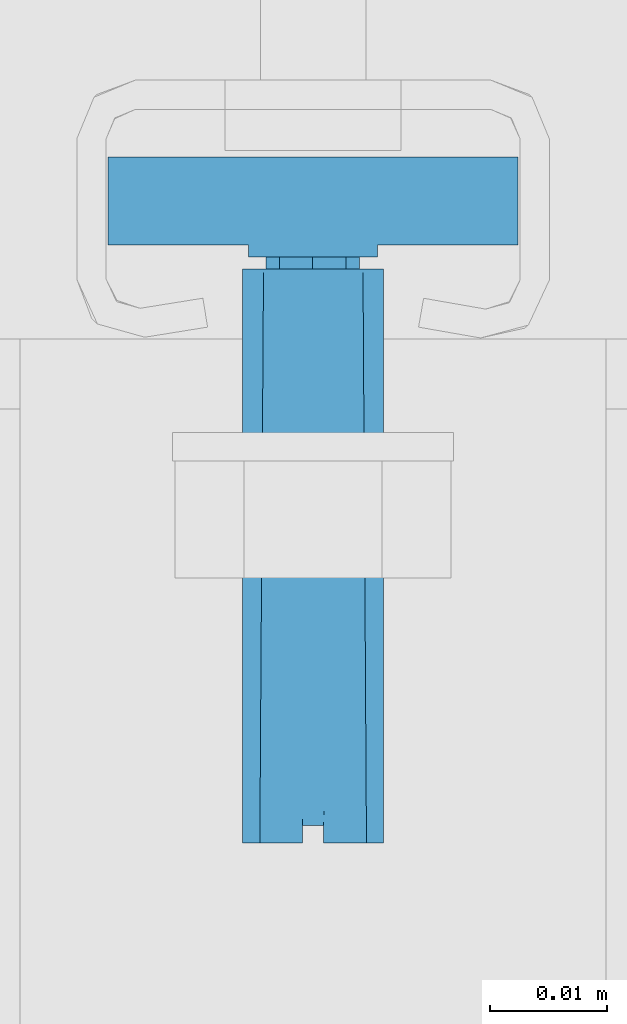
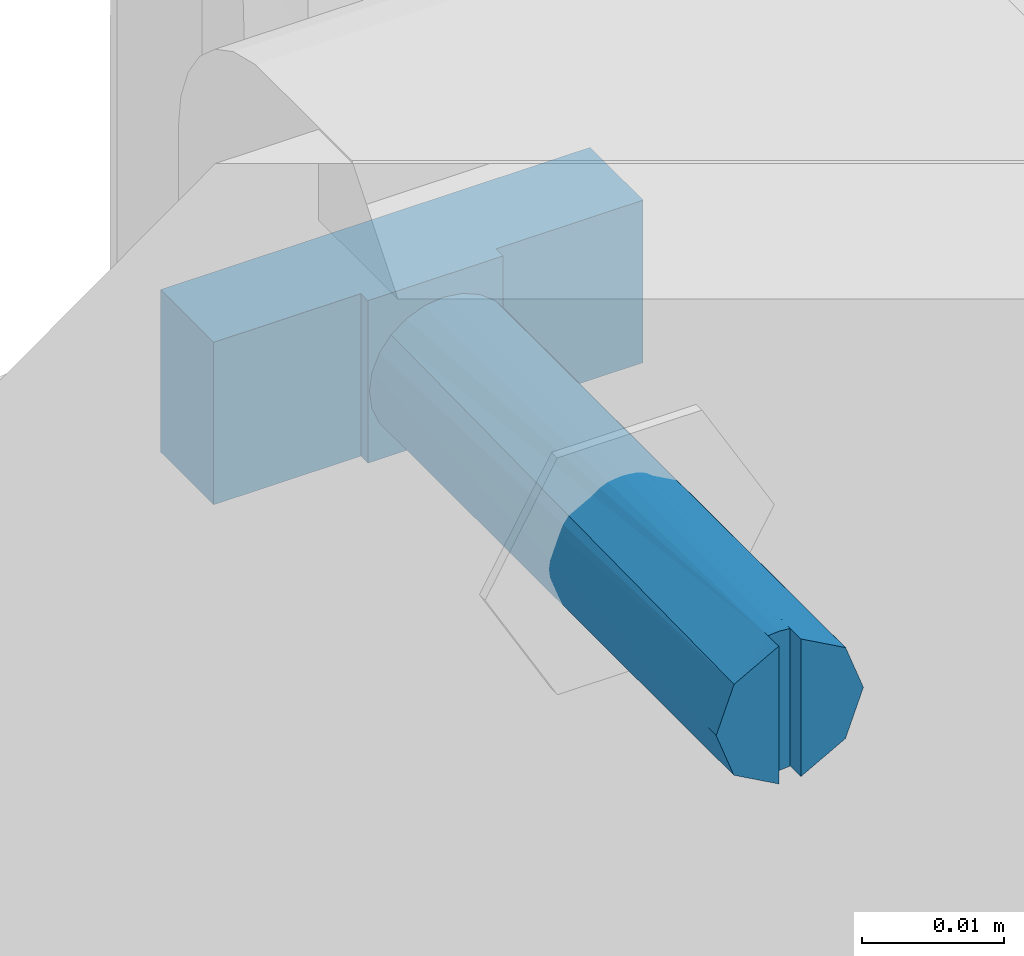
# One storey, part 6 of 7: 1 assembly.
"""IFC2X3 building model written with IfcOpenShell, lengths in metres."""

from ifc_helpers import new_model, entity, si_unit, converted_unit, derived_unit, direction, frame, origin, place, context, subcontext, project, spatial, faceted_brep, source, transform, mapped, material, type_object, type_shapes, element, save


model = new_model("IFC2X3")

# Units and contexts
model_context = context("Model", 3, precision=1e-05, world=origin(), true_north=direction((6.123031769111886e-17, 1.0)))
body_context = subcontext(model_context, "Body", "Model", "MODEL_VIEW")
ifc_project = project(units=[si_unit("LENGTHUNIT", "METRE"), si_unit("AREAUNIT", "SQUARE_METRE"), converted_unit("PLANEANGLEUNIT", "DEGREE", entity("IfcPlaneAngleMeasure", 0.017453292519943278), si_unit("PLANEANGLEUNIT", "RADIAN"), dimensions=[0, 0, 0, 0, 0, 0, 0]), si_unit("VOLUMEUNIT", "CUBIC_METRE"), derived_unit("THERMALTRANSMITTANCEUNIT", [(si_unit("MASSUNIT", "GRAM", prefix="KILO"), 1), (si_unit("THERMODYNAMICTEMPERATUREUNIT", "KELVIN"), -1), (si_unit("TIMEUNIT", "SECOND"), -3)]), derived_unit("USERDEFINED", [(si_unit("MASSUNIT", "GRAM", prefix="KILO"), 1), (si_unit("THERMODYNAMICTEMPERATUREUNIT", "KELVIN"), -1), (si_unit("TIMEUNIT", "SECOND"), -2)]), derived_unit("THERMALRESISTANCEUNIT", [(si_unit("MASSUNIT", "GRAM", prefix="KILO"), -1), (si_unit("TIMEUNIT", "SECOND"), 3), (si_unit("THERMODYNAMICTEMPERATUREUNIT", "KELVIN"), 1)]), derived_unit("MASSDENSITYUNIT", [(si_unit("MASSUNIT", "GRAM", prefix="KILO"), 1), (si_unit("LENGTHUNIT", "METRE"), -3)]), derived_unit("VAPORPERMEABILITYUNIT", [(si_unit("LENGTHUNIT", "METRE"), -1), (si_unit("TIMEUNIT", "SECOND"), 1)]), derived_unit("USERDEFINED", [(si_unit("MASSUNIT", "GRAM", prefix="KILO"), 1), (si_unit("TIMEUNIT", "SECOND"), -3), (si_unit("LENGTHUNIT", "METRE"), 3), (si_unit("ELECTRICCURRENTUNIT", "AMPERE"), -2)]), si_unit("PRESSUREUNIT", "PASCAL")], contexts=[model_context])

# Site, building, storey
site_placement = place(None, origin())
site = spatial("IfcSite", under=ifc_project, at=site_placement, Name="Default", CompositionType="ELEMENT")
building_placement = place(site_placement, origin())
building = spatial("IfcBuilding", under=site, at=building_placement, CompositionType="ELEMENT")
storey_placement = place(building_placement, origin())
storey = spatial("IfcBuildingStorey", under=building, at=storey_placement, Name="L0", CompositionType="ELEMENT", Elevation=0.0)

# Assembly
ifc_material = material(Name="REC_Acero, S 275JR (Zincado)")
type_product = type_object("IfcTypeProduct", Name="REC-TPH1250:TPH1250", material=ifc_material)
shared_shape = source(origin(), body_context, "Body", "Brep", [
    faceted_brep([(-0.005512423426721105, -0.006999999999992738, 0.04999470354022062), (0.00551242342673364, -0.006999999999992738, 0.04999470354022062), (0.00551242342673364, -0.006999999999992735, 0.0509947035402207), (0.01750000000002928, -0.006999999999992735, 0.0509947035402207), (0.01750000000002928, -0.006999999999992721, 0.05849470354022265), (-0.017500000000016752, -0.006999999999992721, 0.05849470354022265), (-0.017500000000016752, -0.006999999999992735, 0.050994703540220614), (-0.005512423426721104, -0.006999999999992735, 0.050994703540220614), (-0.005512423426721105, 0.007000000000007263, 0.04999470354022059), (-0.005512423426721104, 0.007000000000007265, 0.050994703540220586), (-0.017500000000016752, 0.007000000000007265, 0.050994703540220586), (-0.017500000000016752, 0.007000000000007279, 0.058494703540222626), (0.01750000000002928, 0.007000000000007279, 0.058494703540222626), (0.01750000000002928, 0.007000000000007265, 0.05099470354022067), (0.00551242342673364, 0.007000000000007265, 0.05099470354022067), (0.00551242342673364, 0.007000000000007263, 0.04999470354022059)], [[[0, 1, 2, 3, 4, 5, 6, 7]], [[8, 9, 10, 11, 12, 13, 14, 15]], [[7, 9, 8, 0]], [[5, 11, 10, 6]], [[4, 12, 11, 5]], [[3, 13, 12, 4]], [[2, 14, 13, 3]], [[1, 15, 14, 2]], [[0, 8, 15, 1]], [[6, 10, 9, 7]]]),
    faceted_brep([(0.002796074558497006, 0.002860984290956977, 0.0489420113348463), (0.00396764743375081, 3.2557166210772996e-05, 0.048942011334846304), (0.0027960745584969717, -0.0027958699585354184, 0.048942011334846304), (-3.235256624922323e-05, -0.0039674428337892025, 0.04894201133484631), (-0.0028607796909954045, -0.0027958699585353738, 0.048942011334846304), (-0.004032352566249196, 3.255716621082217e-05, 0.048942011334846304), (-0.0028607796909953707, 0.002860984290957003, 0.0489420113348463), (-3.2352566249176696e-05, 0.004032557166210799, 0.0489420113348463), (0.002796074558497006, 0.002860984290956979, 0.0499947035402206), (-3.2352566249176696e-05, 0.0040325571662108, 0.0499947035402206), (-0.0028607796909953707, 0.002860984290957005, 0.0499947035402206), (-0.004032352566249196, 3.2557166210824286e-05, 0.04999470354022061), (-0.0028607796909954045, -0.0027958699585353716, 0.04999470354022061), (-3.235256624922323e-05, -0.0039674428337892, 0.04999470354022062), (0.0027960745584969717, -0.0027958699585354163, 0.04999470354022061), (0.00396764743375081, 3.255716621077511e-05, 0.04999470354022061)], [[[0, 1, 2, 3, 4, 5, 6, 7]], [[8, 9, 10, 11, 12, 13, 14, 15]], [[7, 9, 8, 0]], [[6, 10, 9, 7]], [[5, 11, 10, 6]], [[4, 12, 11, 5]], [[3, 13, 12, 4]], [[2, 14, 13, 3]], [[1, 15, 14, 2]], [[0, 8, 15, 1]]]),
    faceted_brep([(0.0008991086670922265, -0.00593225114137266, 0.0), (0.0008991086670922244, 0.005932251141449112, 0.0), (0.004541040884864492, 0.00392160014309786, 0.0), (0.005999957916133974, 2.2472309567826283e-05, 0.0), (0.004555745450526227, -0.0039045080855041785, 0.0), (-0.0008991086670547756, -0.005932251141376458, 0.0), (-0.004541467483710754, -0.0039211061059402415, 0.0), (-0.005999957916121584, -2.2472309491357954e-05, 0.0), (-0.004556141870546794, 0.00390404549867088, 0.0), (-0.0008991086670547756, 0.005932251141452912, 0.0), (-0.002980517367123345, -0.005207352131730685, 0.04894201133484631), (-0.0015311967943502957, -0.005801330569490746, 0.04894201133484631), (2.2472309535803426e-05, -0.0059999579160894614, 0.04894201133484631), (0.0015746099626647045, -0.005789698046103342, 0.04894201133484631), (0.0030194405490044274, -0.005184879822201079, 0.04894201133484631), (0.004258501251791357, -0.004226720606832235, 0.04894201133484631), (0.005207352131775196, -0.002980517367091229, 0.04894201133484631), (0.005801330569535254, -0.0015311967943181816, 0.048942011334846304), (0.005999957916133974, 2.2472309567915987e-05, 0.048942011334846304), (0.005789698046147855, 0.0015746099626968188, 0.048942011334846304), (0.005184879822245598, 0.0030194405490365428, 0.0489420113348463), (0.0042267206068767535, 0.004258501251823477, 0.0489420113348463), (0.002980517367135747, 0.005207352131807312, 0.0489420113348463), (0.0015311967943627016, 0.005801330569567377, 0.0489420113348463), (-2.2472309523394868e-05, 0.005999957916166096, 0.0489420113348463), (-0.001574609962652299, 0.005789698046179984, 0.0489420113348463), (-0.003019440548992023, 0.005184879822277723, 0.0489420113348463), (-0.004258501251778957, 0.004226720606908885, 0.0489420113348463), (-0.005207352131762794, 0.0029805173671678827, 0.0489420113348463), (-0.005801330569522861, 0.0015311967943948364, 0.048942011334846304), (-0.005999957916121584, -2.247230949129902e-05, 0.048942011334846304), (-0.005789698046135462, -0.0015746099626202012, 0.048942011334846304), (-0.005184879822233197, -0.0030194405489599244, 0.04894201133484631), (-0.004226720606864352, -0.004258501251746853, 0.04894201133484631), (0.0008991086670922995, 0.005932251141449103, 0.0014985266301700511), (0.0, 0.0060000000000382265, 0.0014985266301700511), (-0.0008991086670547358, 0.005932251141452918, 0.0014985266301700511), (-0.0008991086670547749, -0.005932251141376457, 0.001498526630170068), (0.0, -0.00599999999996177, 0.001498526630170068), (0.0008991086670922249, -0.005932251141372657, 0.001498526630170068)], [[[0, 1, 2, 3, 4]], [[5, 6, 7, 8, 9]], [[10, 11, 12, 13, 14, 15, 16, 17, 18, 19, 20, 21, 22, 23, 24, 25, 26, 27, 28, 29, 30, 31, 32, 33]], [[19, 18, 3]], [[21, 20, 2]], [[2, 20, 19]], [[34, 22, 21]], [[3, 2, 19]], [[34, 23, 22]], [[2, 34, 21]], [[2, 1, 34]], [[34, 35, 24]], [[24, 23, 34]], [[25, 24, 36]], [[27, 26, 36]], [[36, 26, 25]], [[8, 28, 27]], [[8, 36, 9]], [[8, 27, 36]], [[7, 30, 29]], [[8, 7, 29]], [[8, 29, 28]], [[24, 35, 36]], [[31, 30, 7]], [[33, 32, 6]], [[6, 32, 31]], [[37, 10, 33]], [[7, 6, 31]], [[37, 11, 10]], [[6, 37, 33]], [[6, 5, 37]], [[37, 38, 12]], [[12, 11, 37]], [[13, 12, 39]], [[15, 14, 39]], [[39, 14, 13]], [[4, 16, 15]], [[4, 39, 0]], [[4, 15, 39]], [[3, 18, 17]], [[4, 3, 17]], [[4, 17, 16]], [[12, 38, 39]], [[37, 5, 9, 36]], [[39, 38, 37, 36, 35, 34]], [[0, 39, 34, 1]]]),
])
type_shapes(type_product, [shared_shape])
assembly_placement = place(storey_placement, frame((7.287720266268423, 15.911535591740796, 2.6250000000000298), z_axis=(0.0, 1.0, 0.0), x_axis=(1.0, 0.0, 0.0)))
element("IfcElementAssembly", 1, at=assembly_placement, inside=storey, type_object=type_product, material=ifc_material, Name="REC-TPH1250:TPH1250", ObjectType="REC-TPH1250:TPH1250", AssemblyPlace="NOTDEFINED", PredefinedType="NOTDEFINED", context=body_context, shape_type="MappedRepresentation", body=[
    mapped(shared_shape, transform((0.0, 0.0, 0.0), scale=1.0)),
])

save(model, "model.ifc")
